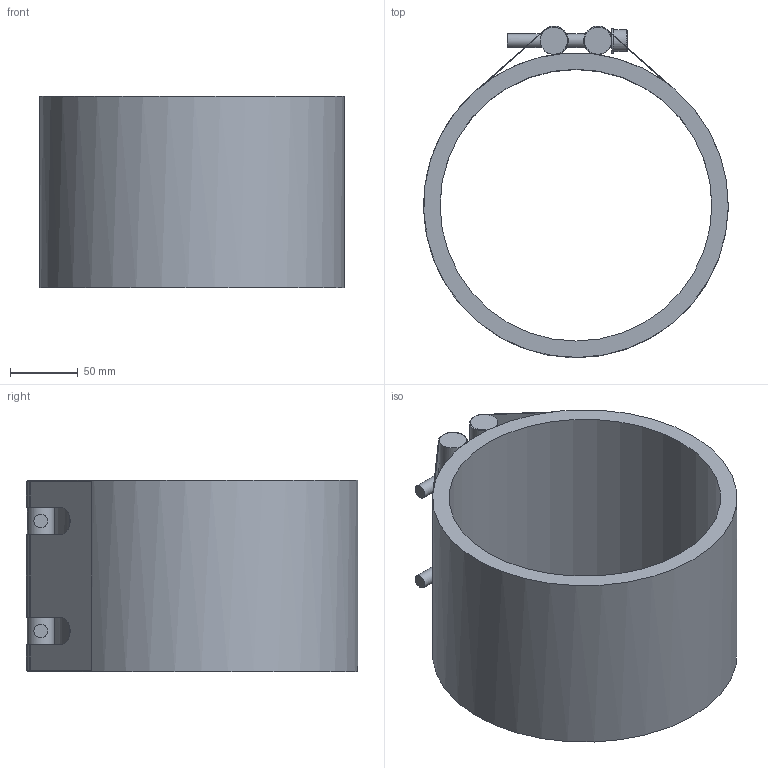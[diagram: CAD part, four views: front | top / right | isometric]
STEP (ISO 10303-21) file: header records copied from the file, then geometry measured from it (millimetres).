
FILE_DESCRIPTION(/* description */ (''),/* implementation_level */ '2;1');
FILE_NAME(/* name */ 'C:\Users\BR_11K\Desktop\STRAUB PLAST-GRIP 200.0.stp',/* time_stamp */ '2016-05-09T08:28:38+02:00',/* author */ ('BR_11K'),/* organization */ (''),/* preprocessor_version */ 'ST-DEVELOPER v16.1',/* originating_system */ 'Autodesk Inventor 2016',/* authorisation */ '');
FILE_SCHEMA (('AUTOMOTIVE_DESIGN { 1 0 10303 214 3 1 1 }'));
Length unit declared in the file: millimetre
Products named in the file (1): STRAUB PLAST-GRIP 200.0
Bounding box: 224.16 x 243.8 x 141 mm (x, y, z)
Volume: 1247152.9 mm3; surface area: 251746.4 mm2
Topology: 1 solids, 1 shells, 88 faces, 254 edges, 163 vertices
Faces by surface type: plane 56, cylinder 30, torus 2
Full cylindrical faces by diameter (mm): 10 x4, 16 x2, 18 x2, 20 x2, 200 x1, 224.2 x1
Entity records: 3052 total; most frequent: CARTESIAN_POINT 739, DIRECTION 476, ORIENTED_EDGE 460, EDGE_CURVE 226, AXIS2_PLACEMENT_3D 171, VERTEX_POINT 156, LINE 134, VECTOR 134
